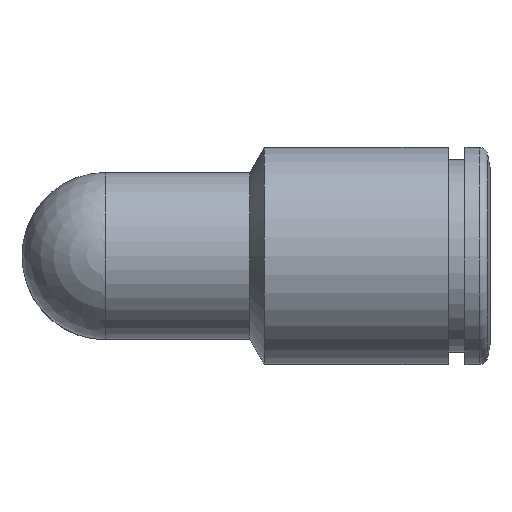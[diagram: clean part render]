
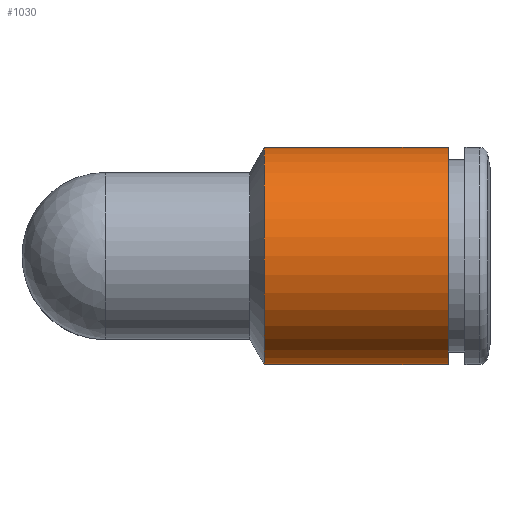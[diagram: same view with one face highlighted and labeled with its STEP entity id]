
A CAD part, top view. The second image highlights one B-rep face of the part: STEP entity #1030.
In plain terms, the highlighted cylindrical face has radius 6.5 mm (diameter 13 mm), a full revolution.
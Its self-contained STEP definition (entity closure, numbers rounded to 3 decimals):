
#1030=ADVANCED_FACE('', (#1040,#1050), #1060, .T.);
#2250=AXIS2_PLACEMENT_3D('Ax2Pl3d', #2260, #2270, #2280);
#3530=AXIS2_PLACEMENT_3D('Ax2Pl3d', #3540, #3550, #3560);
#3570=AXIS2_PLACEMENT_3D('Ax2Pl3d', #3580, #3590, #3600);
#2260=CARTESIAN_POINT('HicPkt', (33.254,-127.348,
37.66));
#21250=CARTESIAN_POINT('', (33.254,-127.348,44.16));
#3540=CARTESIAN_POINT('HicPkt', (22.254,-127.348,
37.66));
#21400=CARTESIAN_POINT('', (22.254,-127.348,44.16));
#3580=CARTESIAN_POINT('HicPkt', (33.254,-127.348,
37.66));
#21610=CIRCLE('Circle', #2250, 6.5);
#21760=CIRCLE('Circle', #3530, 6.5);
#1060=CYLINDRICAL_SURFACE('Zyl', #3570, 6.5);
#2270=DIRECTION('Axis', (1.,0.,0.));
#2280=DIRECTION('RefDirection', (0.,0.,-1.));
#3550=DIRECTION('Axis', (1.,0.,0.));
#3560=DIRECTION('RefDirection', (0.,0.,-1.));
#3590=DIRECTION('Axis', (-1.,0.,0.))
;
#3600=DIRECTION('RefDirection', (0.,
0.,-1.));
#23360=EDGE_CURVE('', #23370, #23370, #21610, .T.);
#23680=EDGE_CURVE('', #23690, #23690, #21760, .T.);
#24950=EDGE_LOOP('Edge_loop', (#24960));
#24970=EDGE_LOOP('Edge_loop', (#24980));
#1050=FACE_BOUND('', #24970, .T.);
#1040=FACE_OUTER_BOUND('Face_outer_bound', #24950, .T.);
#24960=ORIENTED_EDGE('', *, *, #23680, .T.);
#24980=ORIENTED_EDGE('', *, *, #23360, .F.);
#23370=VERTEX_POINT('', #21250);
#23690=VERTEX_POINT('', #21400);
